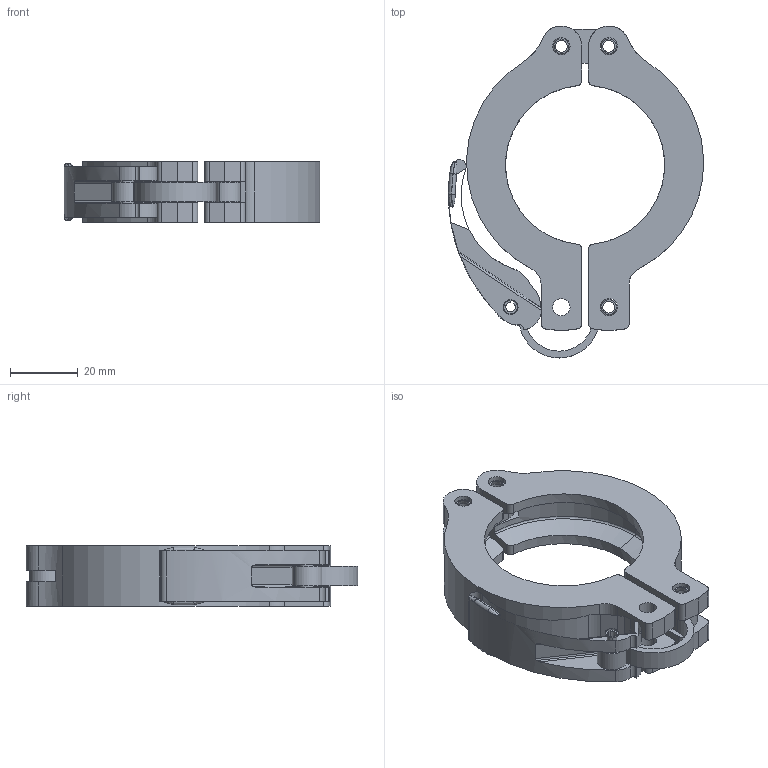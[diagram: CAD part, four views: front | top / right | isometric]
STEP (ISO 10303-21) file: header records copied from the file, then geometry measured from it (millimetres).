
FILE_DESCRIPTION((''),'2;1');
FILE_NAME('W:\211-007.stp','2003-12-12T15:16:50',('KAA'),(''),'Autodesk Inventor (R) 6.0','Autodesk Inventor (R) 6.0','');
FILE_SCHEMA(('CONFIG_CONTROL_DESIGN'));
Length unit declared in the file: millimetre
Products named in the file (1): 211-007
Bounding box: 75.33 x 98 x 18 mm (x, y, z)
Volume: 38284.7 mm3; surface area: 22546 mm2
Topology: 5 solids, 5 shells, 233 faces, 635 edges, 410 vertices
Faces by surface type: cylinder 102, plane 76, cone 32, torus 12, bspline 11
Entity records: 8477 total; most frequent: CARTESIAN_POINT 2316, DIRECTION 1315, ORIENTED_EDGE 1270, EDGE_CURVE 635, AXIS2_PLACEMENT_3D 505, VERTEX_POINT 410, VECTOR 305, LINE 305
